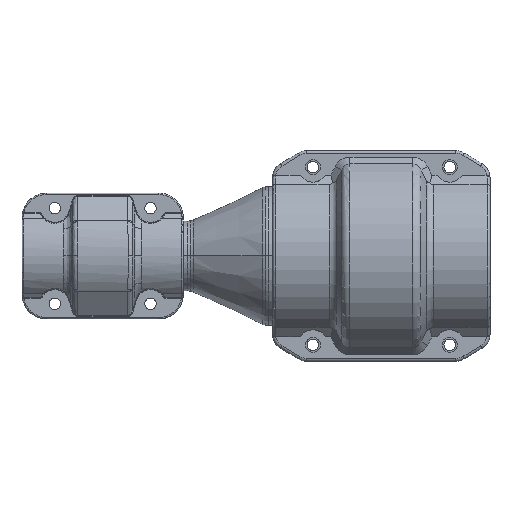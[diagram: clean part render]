
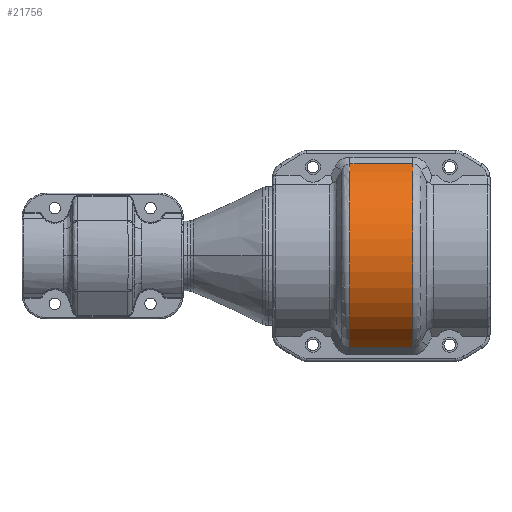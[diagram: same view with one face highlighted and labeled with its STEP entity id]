
A CAD part, top view. The second image highlights one B-rep face of the part: STEP entity #21756.
In plain terms, the highlighted cylindrical face has radius 37.15 mm (diameter 74.3 mm), a partial arc.
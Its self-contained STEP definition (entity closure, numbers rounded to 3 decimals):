
#19305=CARTESIAN_POINT('',(11.462,0.,0.));
#19306=DIRECTION('',(1.,0.,0.));
#19307=DIRECTION('',(0.,0.,1.));
#19308=AXIS2_PLACEMENT_3D('',#19305,#19306,#19307);
#19313=CARTESIAN_POINT('',(11.462,0.,0.));
#19314=DIRECTION('',(1.,0.,0.));
#19315=DIRECTION('',(0.,0.906,0.424));
#19316=AXIS2_PLACEMENT_3D('',#19313,#19314,#19315);
#19468=CARTESIAN_POINT('',(-11.462,0.,0.));
#19469=DIRECTION('',(-1.,0.,0.));
#19470=DIRECTION('',(0.,-0.906,0.424));
#19471=AXIS2_PLACEMENT_3D('',#19468,#19469,#19470);
#19492=CARTESIAN_POINT('',(-11.462,0.,0.));
#19493=DIRECTION('',(-1.,0.,0.));
#19494=DIRECTION('',(0.,0.,1.));
#19495=AXIS2_PLACEMENT_3D('',#19492,#19493,#19494);
#19500=DIRECTION('',(1.,0.,0.));
#19501=VECTOR('',#19500,22.924);
#19502=CARTESIAN_POINT('',(-11.462,-33.64,
15.763));
#19503=LINE('',#19502,#19501);
#19507=DIRECTION('',(-1.,0.,0.));
#19508=VECTOR('',#19507,22.924);
#19509=CARTESIAN_POINT('',(11.462,33.64,15.763));
#19510=LINE('',#19509,#19508);
#19903=CARTESIAN_POINT('',(-11.462,-33.64,
15.763));
#19904=CARTESIAN_POINT('',(-11.462,0.,37.15));
#19905=VERTEX_POINT('',#19903);
#19906=VERTEX_POINT('',#19904);
#19907=CARTESIAN_POINT('',(-11.462,33.64,
15.763));
#19908=VERTEX_POINT('',#19907);
#19909=CARTESIAN_POINT('',(11.462,0.,37.15));
#19910=CARTESIAN_POINT('',(11.462,-33.64,
15.763));
#19911=VERTEX_POINT('',#19909);
#19912=VERTEX_POINT('',#19910);
#19913=CARTESIAN_POINT('',(11.462,33.64,15.763));
#19914=VERTEX_POINT('',#19913);
#21742=CARTESIAN_POINT('',(45.067,0.,0.));
#21743=DIRECTION('',(-1.,0.,0.));
#21744=DIRECTION('',(0.,0.,1.));
#21745=AXIS2_PLACEMENT_3D('',#21742,#21743,#21744);
#21746=CYLINDRICAL_SURFACE('',#21745,37.15);
#21747=ORIENTED_EDGE('',*,*,#21523,.T.);
#21748=ORIENTED_EDGE('',*,*,#21593,.F.);
#21749=ORIENTED_EDGE('',*,*,#21730,.T.);
#21750=ORIENTED_EDGE('',*,*,#21737,.T.);
#21752=ORIENTED_EDGE('',*,*,#21751,.F.);
#21753=ORIENTED_EDGE('',*,*,#21525,.T.);
#21754=EDGE_LOOP('',(#21747,#21748,#21749,#21750,#21752,#21753));
#21755=FACE_OUTER_BOUND('',#21754,.F.);
#19309=CIRCLE('',#19308,37.15);
#19317=CIRCLE('',#19316,37.15);
#19472=CIRCLE('',#19471,37.15);
#19496=CIRCLE('',#19495,37.15);
#21523=EDGE_CURVE('',#19911,#19912,#19309,.T.);
#21525=EDGE_CURVE('',#19914,#19911,#19317,.T.);
#21593=EDGE_CURVE('',#19905,#19912,#19503,.T.);
#21730=EDGE_CURVE('',#19905,#19906,#19472,.T.);
#21737=EDGE_CURVE('',#19906,#19908,#19496,.T.);
#21751=EDGE_CURVE('',#19914,#19908,#19510,.T.);
#21756=ADVANCED_FACE('',(#21755),#21746,.T.);
